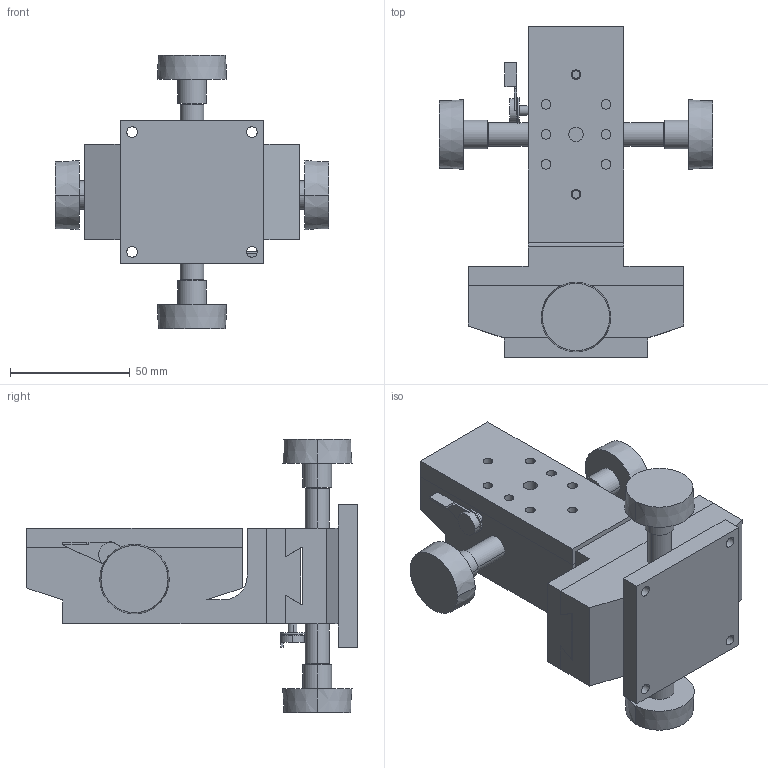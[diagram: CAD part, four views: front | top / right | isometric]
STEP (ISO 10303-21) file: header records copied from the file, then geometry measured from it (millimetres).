
FILE_DESCRIPTION (( 'STEP AP203' ), '1' );
FILE_NAME ('LM-912WL.STEP', '2008-03-04T00:14:04', ( '' ), ( '' ), 'SwSTEP 2.0', 'SolidWorks 2007', '' );
FILE_SCHEMA (( 'CONFIG_CONTROL_DESIGN' ));
Length unit declared in the file: millimetre
Products named in the file (4): LM-912WL-3; LM-912WL-2; LM-912WL; LM-912WL-1
Assembly tree (3 placements, depth 2):
  LM-912WL
    LM-912WL-3
    LM-912WL-2
    LM-912WL-1
Bounding box: 114 x 138 x 114 mm (x, y, z)
Volume: 313754.7 mm3; surface area: 76480.9 mm2
Topology: 3 solids, 5 shells, 255 faces, 596 edges, 394 vertices
Faces by surface type: plane 134, cylinder 113, cone 8
Entity records: 7836 total; most frequent: DIRECTION 1366, CARTESIAN_POINT 1251, ORIENTED_EDGE 1192, EDGE_CURVE 596, AXIS2_PLACEMENT_3D 509, VERTEX_POINT 394, LINE 348, VECTOR 348
